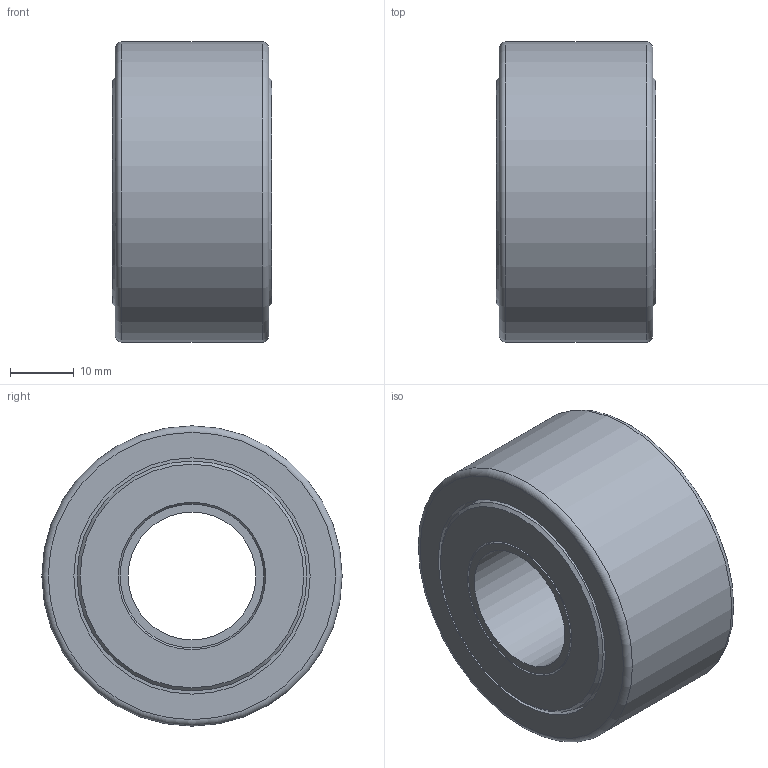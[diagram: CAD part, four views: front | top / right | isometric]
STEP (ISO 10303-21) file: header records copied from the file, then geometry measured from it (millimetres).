
FILE_DESCRIPTION(/* description */ (''),/* implementation_level */ '2;1');
FILE_NAME(/* name */ 'C:\Users\OUREHANEKD\Desktop\Ložiská 3D\MODELY\Ihlove loziska\NATR-PP\NATR-PP--\NATR20-PP.stp',/* time_stamp */ '2016-10-18T15:24:29+02:00',/* author */ ('OUREHANEKD'),/* organization */ (''),/* preprocessor_version */ 'ST-DEVELOPER v15.6',/* originating_system */ 'Autodesk Inventor 2015',/* authorisation */ '');
FILE_SCHEMA (('AUTOMOTIVE_DESIGN { 1 0 10303 214 3 1 1 }'));
Length unit declared in the file: millimetre
Products named in the file (6): NATR20-01; NATR20-02; NATR20-kl; NATR20-kr; NATR20-needle; NATR20-PP
Assembly tree (24 placements, depth 2):
  NATR20-PP
    NATR20-01
    NATR20-02
    NATR20-kl
    NATR20-kr
    NATR20-needle  x20
Bounding box: 25 x 47 x 47 mm (x, y, z)
Volume: 33520.9 mm3; surface area: 21015.1 mm2
Topology: 25 solids, 25 shells, 98 faces, 122 edges, 80 vertices
Faces by surface type: plane 56, cylinder 36, cone 4, torus 2
Full cylindrical faces by diameter (mm): 3.25 x20, 20 x1, 22.5 x4, 24 x1, 25.63 x1, 28.87 x1, 30.5 x1, 36 x4, 37 x2, 47 x1
Entity records: 1113 total; most frequent: DIRECTION 222, CARTESIAN_POINT 151, AXIS2_PLACEMENT_3D 111, EDGE_LOOP 80, ORIENTED_EDGE 80, FACE_OUTER_BOUND 41, ADVANCED_FACE 41, CIRCLE 40
